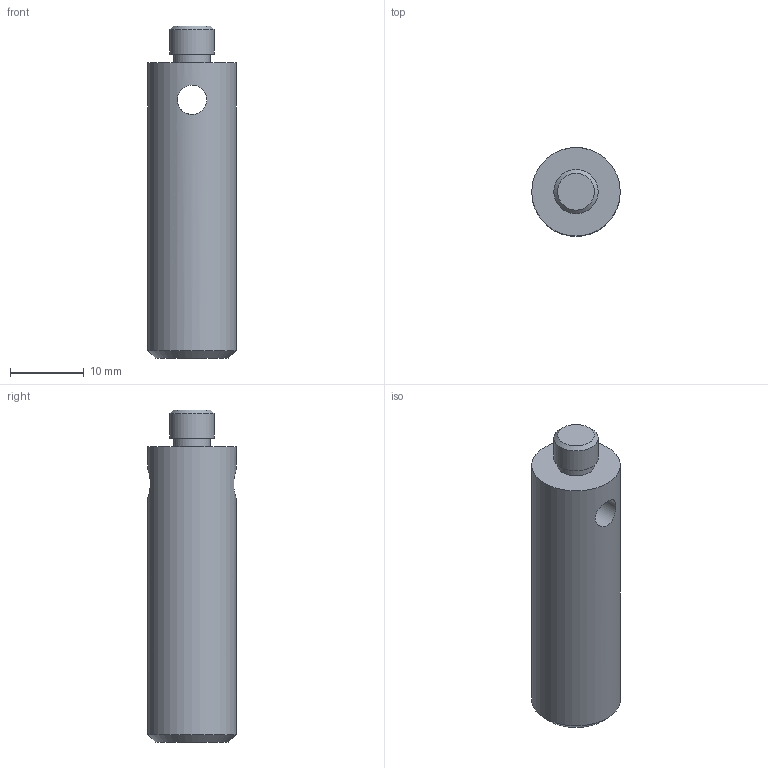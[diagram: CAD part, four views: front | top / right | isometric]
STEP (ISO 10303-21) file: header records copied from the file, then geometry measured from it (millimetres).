
FILE_DESCRIPTION((''),'2;1');
FILE_NAME('S:\1規格品図面ﾃﾞｰﾀ\OpticalHard\01_国内製品\3_Bases\RO\RO-12\RO-12-40\RO-12-40.stp','2007-10-23T14:49:38',('okegawa'),(''),'Autodesk Inventor 11','Autodesk Inventor 11','');
FILE_SCHEMA(('AUTOMOTIVE_DESIGN { 1 0 10303 214 1 1 1 1 }'));
Length unit declared in the file: millimetre
Products named in the file (1): RO-12-40-01-S01
Bounding box: 12 x 12 x 45 mm (x, y, z)
Volume: 4486.2 mm3; surface area: 1933.7 mm2
Topology: 1 solids, 1 shells, 10 faces, 18 edges, 12 vertices
Faces by surface type: cylinder 4, plane 4, cone 2
Full cylindrical faces by diameter (mm): 4 x1, 5 x1, 6 x1, 12 x1
Entity records: 355 total; most frequent: CARTESIAN_POINT 156, DIRECTION 38, ORIENTED_EDGE 22, EDGE_LOOP 20, AXIS2_PLACEMENT_3D 19, VERTEX_POINT 11, EDGE_CURVE 11, FACE_OUTER_BOUND 10
